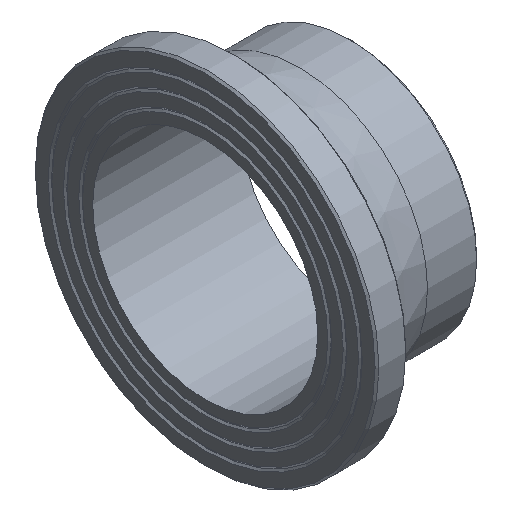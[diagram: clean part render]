
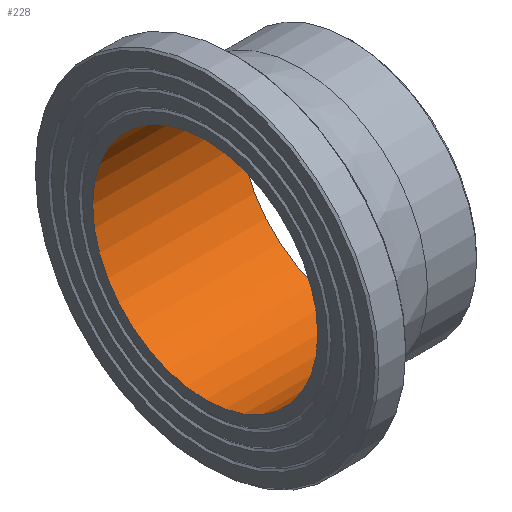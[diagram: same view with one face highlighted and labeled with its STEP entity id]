
A CAD part, isometric view. The second image highlights one B-rep face of the part: STEP entity #228.
In plain terms, the highlighted cylindrical face has radius 88.1 mm (diameter 176.2 mm), a full revolution.
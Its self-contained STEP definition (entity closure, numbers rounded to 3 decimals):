
#33=CYLINDRICAL_SURFACE('',#274,88.1);
#50=ORIENTED_EDGE('',*,*,#79,.F.);
#51=ORIENTED_EDGE('',*,*,#76,.T.);
#76=EDGE_CURVE('',#96,#96,#116,.T.);
#79=EDGE_CURVE('',#99,#99,#119,.T.);
#96=VERTEX_POINT('',#383);
#99=VERTEX_POINT('',#390);
#116=CIRCLE('',#257,88.1);
#119=CIRCLE('',#261,88.1);
#150=EDGE_LOOP('',(#50));
#151=EDGE_LOOP('',(#51));
#190=FACE_BOUND('',#150,.T.);
#191=FACE_BOUND('',#151,.T.);
#228=ADVANCED_FACE('',(#190,#191),#33,.F.);
#257=AXIS2_PLACEMENT_3D('',#382,#303,#304);
#261=AXIS2_PLACEMENT_3D('',#389,#311,#312);
#274=AXIS2_PLACEMENT_3D('',#410,#337,#338);
#303=DIRECTION('',(-1.,0.,0.));
#304=DIRECTION('',(0.,0.,1.));
#311=DIRECTION('',(-1.,0.,0.));
#312=DIRECTION('',(0.,0.,1.));
#337=DIRECTION('',(-1.,0.,0.));
#338=DIRECTION('',(0.,0.,1.));
#382=CARTESIAN_POINT('',(0.,0.,0.));
#383=CARTESIAN_POINT('',(0.,0.,88.1));
#389=CARTESIAN_POINT('',(115.,0.,0.));
#390=CARTESIAN_POINT('',(115.,0.,88.1));
#410=CARTESIAN_POINT('',(60.,0.,0.));
